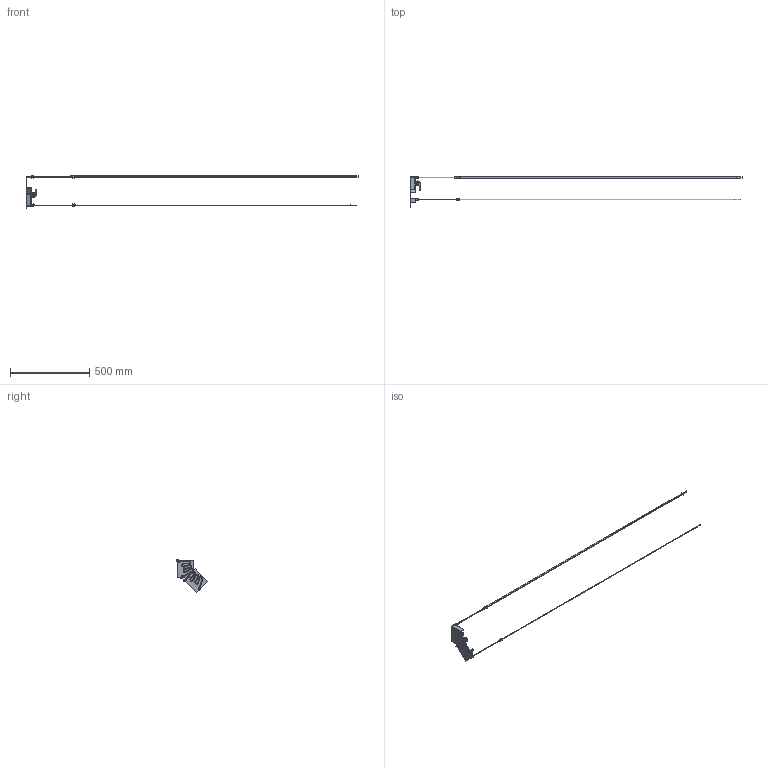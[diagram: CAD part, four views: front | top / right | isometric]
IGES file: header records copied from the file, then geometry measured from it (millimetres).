
Start section:  PTC IGES file: sector_cooling_circuit_asm.igs
Global section: file name: sector_cooling_circuit_asm.igs; native system: Pro/ENGINEER by Parametric Technology Corporation; preprocessor: 2000420; author: hartman; organization: Unknown; date: 020417.150811; units: millimetre
Bounding box: 2099.07 x 199.58 x 210.83 mm (x, y, z)
Volume: 61629.3 mm3; surface area: 1156429.1 mm2
Topology: 45 solids, 47 shells, 2780 faces, 16422 edges, 22640 vertices
Faces by surface type: bspline 1576, revolution 1140, extrusion 64
